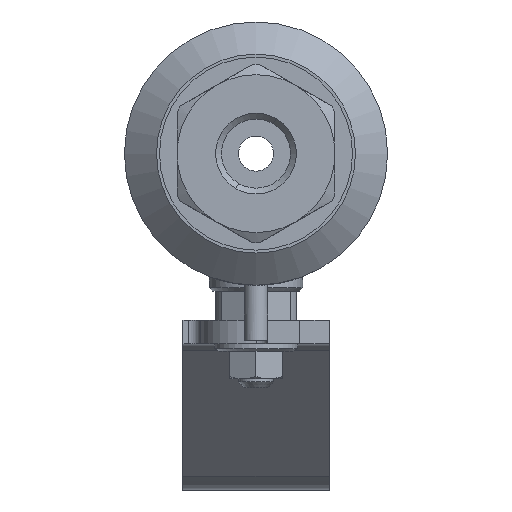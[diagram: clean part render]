
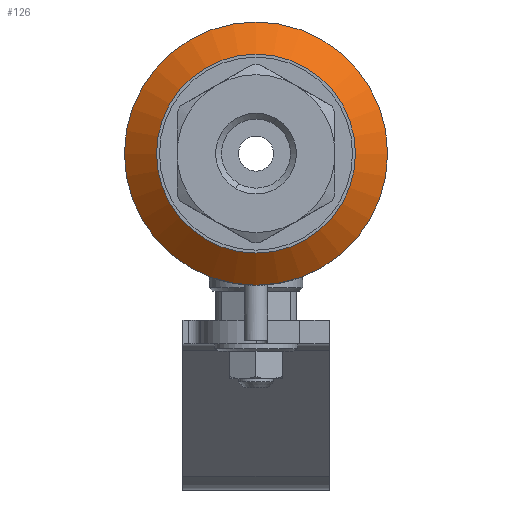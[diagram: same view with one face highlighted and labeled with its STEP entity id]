
A CAD part, left-side view. The second image highlights one B-rep face of the part: STEP entity #126.
In plain terms, the highlighted conical face has half-angle 50 degrees and reference radius 19.75 mm.
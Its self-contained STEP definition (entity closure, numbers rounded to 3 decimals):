
#126=ADVANCED_FACE('',(#1031),#1033,.T.);
#1031=FACE_OUTER_BOUND('',#1032,.T.);
#1032=EDGE_LOOP('',(#2219,#2220,#2221,#2222));
#1033=CONICAL_SURFACE('',#1034,19.75,0.873);
#1034=AXIS2_PLACEMENT_3D('',#1035,#1036,#1037);
#1035=CARTESIAN_POINT('',(-17.692,0.,0.));
#1036=DIRECTION('',(1.,0.,0.));
#1037=DIRECTION('',(0.,1.,0.));
#2219=ORIENTED_EDGE('',*,*,#3409,.T.);
#2220=ORIENTED_EDGE('',*,*,#3371,.T.);
#2221=ORIENTED_EDGE('',*,*,#3409,.F.);
#2222=ORIENTED_EDGE('',*,*,#3410,.F.);
#3371=EDGE_CURVE('',#3747,#3747,#3749,.T.);
#3409=EDGE_CURVE('',#3810,#3747,#3811,.T.);
#3410=EDGE_CURVE('',#3810,#3810,#3812,.T.);
#3747=VERTEX_POINT('',#4975);
#3749=CIRCLE('',#4979,22.5);
#3810=VERTEX_POINT('',#5368);
#3811=LINE('',#5369,#5370);
#3812=CIRCLE('',#5372,17.);
#4975=CARTESIAN_POINT('',(-15.385,-22.5,0.));
#4979=AXIS2_PLACEMENT_3D('',#4980,#4981,#4982);
#4980=CARTESIAN_POINT('',(-15.385,0.,0.));
#4981=DIRECTION('',(-1.,-0.,0.));
#4982=DIRECTION('',(0.,-1.,0.));
#5368=CARTESIAN_POINT('',(-20.,-17.,0.));
#5369=CARTESIAN_POINT('',(-20.,-17.,0.));
#5370=VECTOR('',#5371,1.);
#5371=DIRECTION('',(0.643,-0.766,0.));
#5372=AXIS2_PLACEMENT_3D('',#5373,#5374,#5375);
#5373=CARTESIAN_POINT('',(-20.,0.,0.));
#5374=DIRECTION('',(-1.,-0.,-0.));
#5375=DIRECTION('',(0.,-1.,0.));
